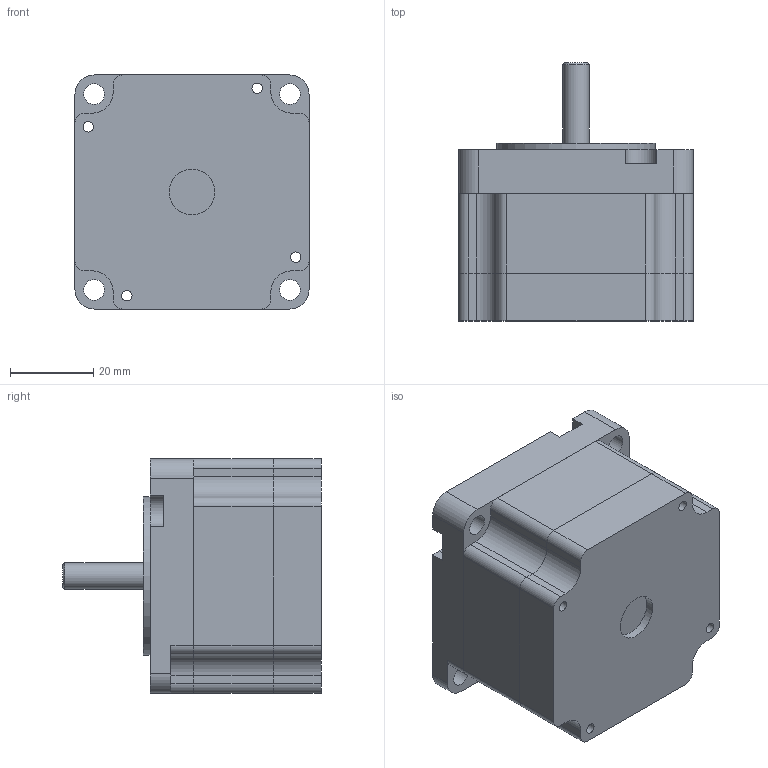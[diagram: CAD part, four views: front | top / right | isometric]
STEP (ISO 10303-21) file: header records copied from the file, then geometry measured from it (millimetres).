
FILE_DESCRIPTION(/* description */ (''),/* implementation_level */ '2;1');
FILE_NAME(/* name */ 'C:\Users\raffaele\Downloads\Projects\E&D\ipt-to-step-conversion\SLDPRT to STP\573P42.stp',/* time_stamp */ '2021-04-07T17:16:21+02:00',/* author */ ('raffaele'),/* organization */ (''),/* preprocessor_version */ 'ST-DEVELOPER v18.1',/* originating_system */ 'Autodesk Inventor 2021',/* authorisation */ '');
FILE_SCHEMA (('AUTOMOTIVE_DESIGN { 1 0 10303 214 3 1 1 }'));
Length unit declared in the file: inch
Products named in the file (1): 573P42
Bounding box: 56.4 x 62.2 x 56.4 mm (x, y, z)
Surface area: 19896.2 mm2 (no closed solid volume)
Topology: 0 solids, 5 shells, 104 faces, 299 edges, 203 vertices
Faces by surface type: plane 51, cylinder 51, cone 2
Full cylindrical faces by diameter (mm): 2.5 x4, 3.2 x4, 5 x4, 6.35 x1, 10 x1, 11 x1, 38.1 x1
Entity records: 3630 total; most frequent: DIRECTION 626, CARTESIAN_POINT 607, ORIENTED_EDGE 532, EDGE_CURVE 299, AXIS2_PLACEMENT_3D 222, VERTEX_POINT 203, LINE 182, VECTOR 182
